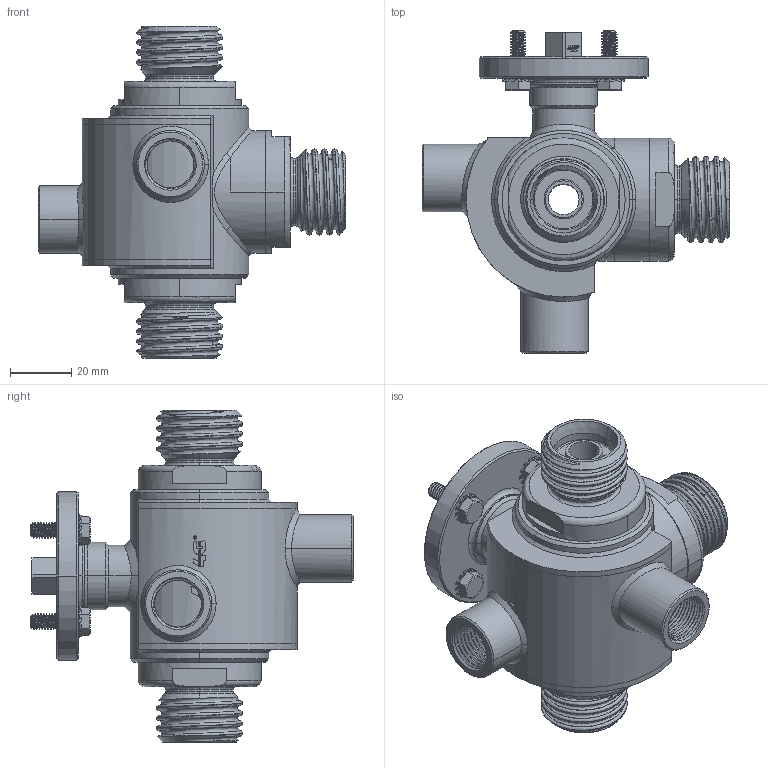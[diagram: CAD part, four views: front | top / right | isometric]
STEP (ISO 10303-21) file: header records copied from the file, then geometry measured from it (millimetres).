
FILE_DESCRIPTION((''),'2;1');
FILE_NAME('303025C6081F','2024-11-20T08:01:46',('tecnico2'),('CDM Tecnoconsulting'),'CREO PARAMETRIC BY PTC INC, 2024063','CREO PARAMETRIC BY PTC INC, 2024063','');
FILE_SCHEMA(('CONFIG_CONTROL_DESIGN','SHAPE_APPEARANCE_LAYERS_GROUPS'));
Products named in the file (1): 303025C6081F
Bounding box: 100 x 104.9 x 108 mm (x, y, z)
Volume: 162222.3 mm3; surface area: 69816.3 mm2
Topology: 1 solids, 5 shells, 1782 faces, 4829 edges, 3126 vertices
Faces by surface type: plane 655, cylinder 485, cone 206, extrusion 167, bspline 159, torus 108, sphere 2
Entity records: 144973 total; most frequent: CARTESIAN_POINT 86354, ORIENTED_EDGE 9634, DIRECTION 7153, PRESENTATION_STYLE_ASSIGNMENT 5179, STYLED_ITEM 4877, CURVE_STYLE 4873, EDGE_CURVE 4817, VERTEX_POINT 3126
